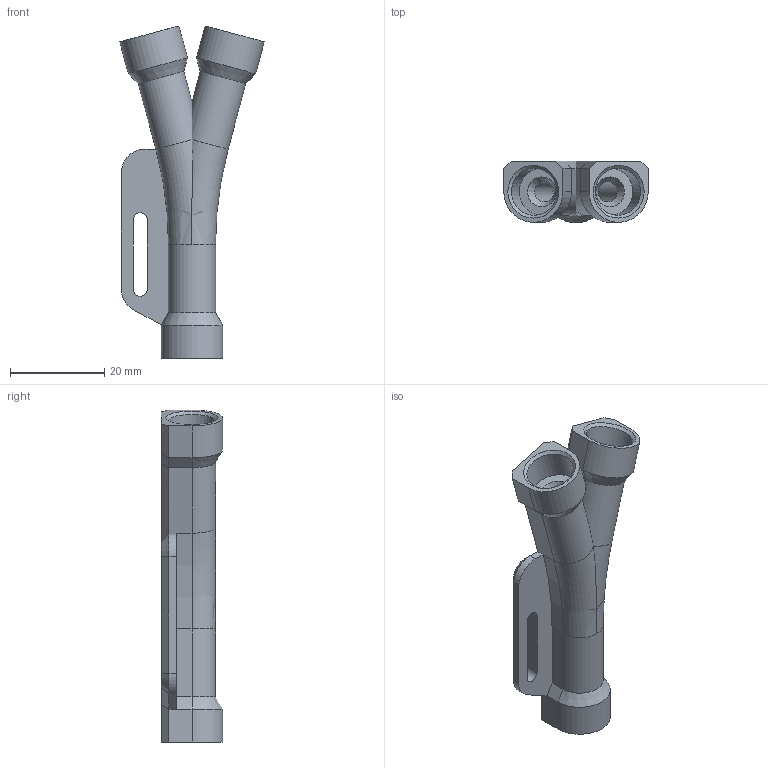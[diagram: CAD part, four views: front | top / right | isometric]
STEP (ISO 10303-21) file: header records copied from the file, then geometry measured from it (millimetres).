
FILE_DESCRIPTION(/* description */ (''),/* implementation_level */ '2;1');
FILE_NAME(/* name */ 'No-Catch Y-Splitter 230816 Self-Tap Fittings v3.step',/* time_stamp */ '2023-08-20T22:02:18-05:00',/* author */ (''),/* organization */ (''),/* preprocessor_version */ 'ST-DEVELOPER v20',/* originating_system */ 'Autodesk Translation Framework v12.9.0.99',/* authorisation */ '');
FILE_SCHEMA (('AUTOMOTIVE_DESIGN { 1 0 10303 214 3 1 1 }'));
Length unit declared in the file: millimetre
Products named in the file (1): No-Catch Y-Splitter 230816 Self-Tap Fittings
Bounding box: 30.67 x 13 x 70.49 mm (x, y, z)
Volume: 9496.7 mm3; surface area: 6933 mm2
Topology: 2 solids, 2 shells, 98 faces, 226 edges, 135 vertices
Faces by surface type: plane 61, cylinder 21, cone 12, bspline 2, torus 2
Full cylindrical faces by diameter (mm): 2 x1, 3.85 x1, 4.3 x3, 7.4 x1, 10 x3
Entity records: 2916 total; most frequent: CARTESIAN_POINT 608, DIRECTION 477, ORIENTED_EDGE 452, EDGE_CURVE 226, AXIS2_PLACEMENT_3D 160, LINE 157, VECTOR 157, VERTEX_POINT 135
